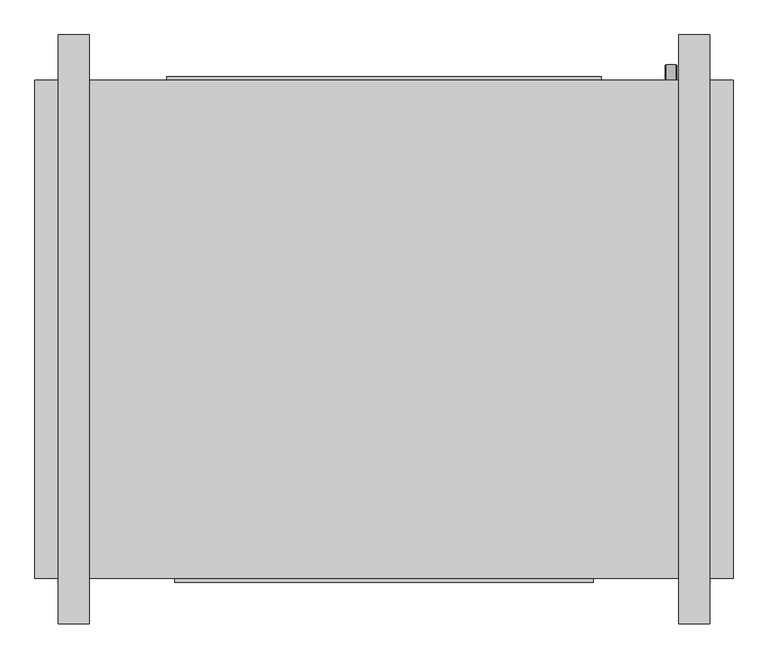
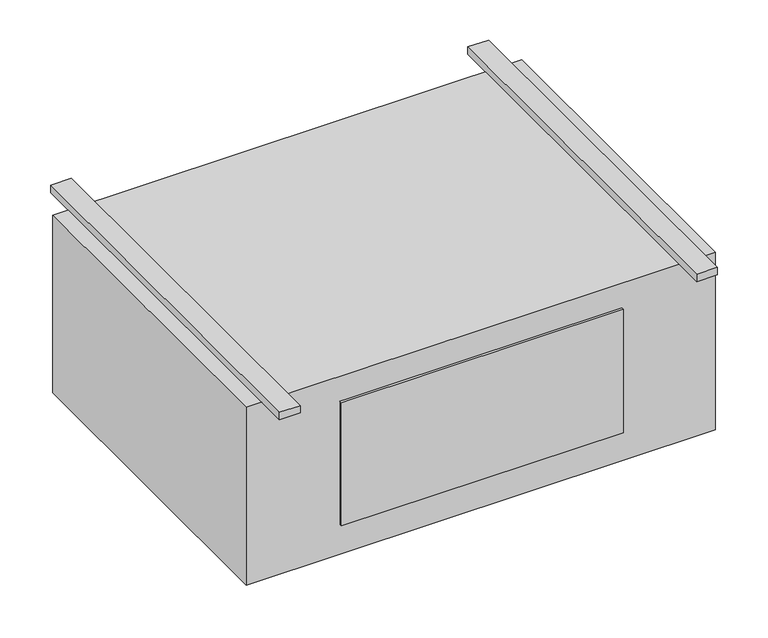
"""IFC4 building model written with IfcOpenShell, lengths in millimetres: proxy geometry, Exposed_High_Capacity_Horizontal_Cabinet_Fan_Coil_Unit_-_42DFA_-_CARRIER_-_4-Pipe_RH_2022 : Size 12 - 277v/60Hz/1Ph - 6/2 Coil."""

from ifc_helpers import new_model, si_unit, point, frame, frame_2d, origin, origin_with_axes, place, context, project, spatial, polyline, circle_curve, trimmed, segment, composite_curve, outline, extrude, source, transform, mapped, element, save


def mechanical_equipment_a9ee03a7(model_context):
    return source(origin(), model_context, "Body", "SweptSolid", [
        extrude(outline(composite_curve([segment(trimmed(circle_curve(frame_2d((-406.4, 622.3)), 9.525), [point((-406.4, 612.775))], [point((-406.4, 631.825))], False, "CARTESIAN"), True, "CONTINUOUS"), segment(trimmed(circle_curve(frame_2d((-406.4, 622.3)), 9.525), [point((-406.4, 631.825))], [point((-406.4, 612.775))], False, "CARTESIAN"), True, "CONTINUOUS")], self_intersect=False)), frame((0.0, 169.8625, 0.0), z_axis=(0.0, 1.0, 0.0), x_axis=(0.0, 0.0, 1.0)), (0.0, 0.0, 1.0), 25.4),
        extrude(outline(composite_curve([segment(trimmed(circle_curve(frame_2d((-330.2, 622.3)), 7.9375), [point((-330.2, 614.3625))], [point((-330.2, 630.2375))], False, "CARTESIAN"), True, "CONTINUOUS"), segment(trimmed(circle_curve(frame_2d((-330.2, 622.3)), 7.9375), [point((-330.2, 630.2375))], [point((-330.2, 614.3625))], False, "CARTESIAN"), True, "CONTINUOUS")], self_intersect=False)), frame((0.0, 169.8625, 0.0), z_axis=(0.0, 1.0, 0.0), x_axis=(0.0, 0.0, 1.0)), (0.0, 0.0, 1.0), 25.4),
        extrude(outline(composite_curve([segment(trimmed(circle_curve(frame_2d((-254.0, 622.3)), 7.9375), [point((-254.0, 614.3625))], [point((-254.0, 630.2375))], False, "CARTESIAN"), True, "CONTINUOUS"), segment(trimmed(circle_curve(frame_2d((-254.0, 622.3)), 7.9375), [point((-254.0, 630.2375))], [point((-254.0, 614.3625))], False, "CARTESIAN"), True, "CONTINUOUS")], self_intersect=False)), frame((0.0, 169.8625, 0.0), z_axis=(0.0, 1.0, 0.0), x_axis=(0.0, 0.0, 1.0)), (0.0, 0.0, 1.0), 25.4),
        extrude(outline(composite_curve([segment(trimmed(circle_curve(frame_2d((-177.8, 622.3)), 7.9375), [point((-177.8, 614.3625))], [point((-177.8, 630.2375))], False, "CARTESIAN"), True, "CONTINUOUS"), segment(trimmed(circle_curve(frame_2d((-177.8, 622.3)), 7.9375), [point((-177.8, 630.2375))], [point((-177.8, 614.3625))], False, "CARTESIAN"), True, "CONTINUOUS")], self_intersect=False)), frame((0.0, 169.8625, 0.0), z_axis=(0.0, 1.0, 0.0), x_axis=(0.0, 0.0, 1.0)), (0.0, 0.0, 1.0), 25.4),
        extrude(outline(composite_curve([segment(trimmed(circle_curve(frame_2d((-101.6, 622.3)), 7.9375), [point((-101.6, 614.3625))], [point((-101.6, 630.2375))], False, "CARTESIAN"), True, "CONTINUOUS"), segment(trimmed(circle_curve(frame_2d((-101.6, 622.3)), 7.9375), [point((-101.6, 630.2375))], [point((-101.6, 614.3625))], False, "CARTESIAN"), True, "CONTINUOUS")], self_intersect=False)), frame((0.0, 169.8625, 0.0), z_axis=(0.0, 1.0, 0.0), x_axis=(0.0, 0.0, 1.0)), (0.0, 0.0, 1.0), 25.4),
        extrude(outline(polyline([(723.9, 169.8625), (723.9, -646.1125), (-419.1, -646.1125), (-419.1, 169.8625), (723.9, 169.8625)])), frame((0.0, 0.0, -457.2), z_axis=(0.0, 0.0, 1.0), x_axis=(1.0, 0.0, 0.0)), (0.0, 0.0, 1.0), 457.2),
        extrude(outline(polyline([(-203.2, 176.2125), (508.0, 176.2125), (508.0, 169.8625), (-203.2, 169.8625), (-203.2, 176.2125)])), frame((0.0, 0.0, -381.0), z_axis=(0.0, 0.0, 1.0), x_axis=(1.0, 0.0, 0.0)), (0.0, 0.0, 1.0), 355.6),
        extrude(outline(polyline([(-330.2, 244.475), (-330.2, -720.725), (-381.0, -720.725), (-381.0, 244.475), (-330.2, 244.475)])), origin_with_axes(), (0.0, 0.0, 1.0), 19.05),
        extrude(outline(polyline([(685.8, 244.475), (685.8, -720.725), (635.0, -720.725), (635.0, 244.475), (685.8, 244.475)])), origin_with_axes(), (0.0, 0.0, 1.0), 19.05),
        extrude(outline(polyline([(495.3, -652.4625), (-190.5, -652.4625), (-190.5, -646.1125), (495.3, -646.1125), (495.3, -652.4625)])), frame((0.0, 0.0, -381.0), z_axis=(0.0, 0.0, 1.0), x_axis=(1.0, 0.0, 0.0)), (0.0, 0.0, 1.0), 317.5),
    ])


if __name__ == "__main__":
    model = new_model("IFC4")
    model_context = context("Model", 3, world=origin())
    ifc_project = project(units=[si_unit("LENGTHUNIT", "METRE", prefix="MILLI")], contexts=[model_context])
    site = spatial("IfcSite", under=ifc_project)
    building = spatial("IfcBuilding", under=site)
    placement = place(None, origin())
    mechanical_equipment_shape = mechanical_equipment_a9ee03a7(model_context)
    element("IfcBuildingElementProxy", 1, Name="Exposed_High_Capacity_Horizontal_Cabinet_Fan_Coil_Unit_-_42DFA_-_CARRIER_-_4-Pipe_RH_2022 : Size 12 - 277v/60Hz/1Ph - 6/2 Coil", ObjectType="Exposed_High_Capacity_Horizontal_Cabinet_Fan_Coil_Unit_-_42DFA_-_CARRIER_-_4-Pipe_RH_2022 : Size 12 - 277v/60Hz/1Ph - 6/2 Coil", at=placement, inside=building, context=model_context, shape_type="MappedRepresentation", body=[
        mapped(mechanical_equipment_shape, transform((0.0, 0.0, 0.0), x_axis=(1.0, 0.0, 0.0), y_axis=(0.0, 1.0, 0.0), z_axis=(0.0, 0.0, 1.0))),
    ])
    save(model, "model.ifc")
